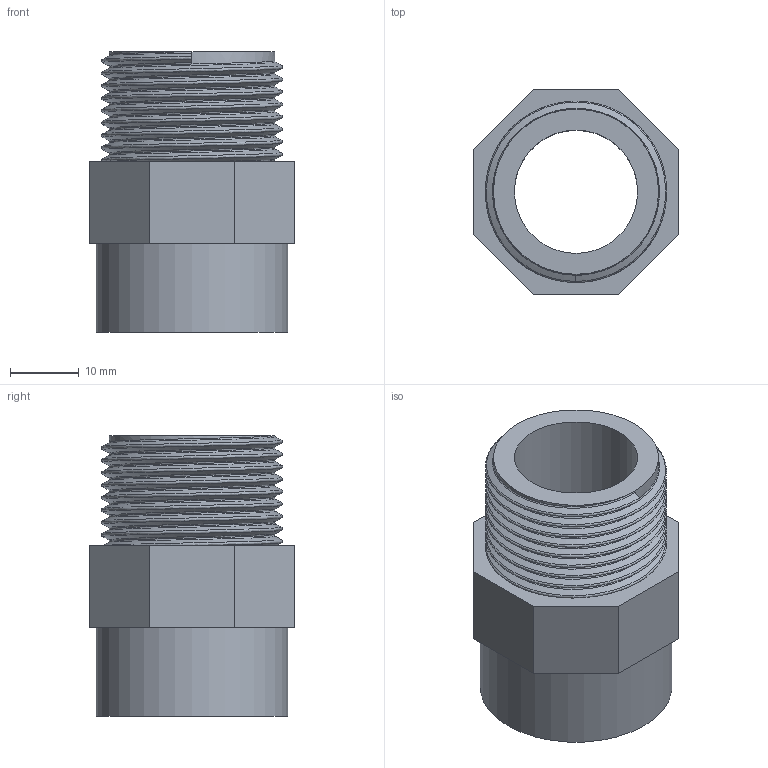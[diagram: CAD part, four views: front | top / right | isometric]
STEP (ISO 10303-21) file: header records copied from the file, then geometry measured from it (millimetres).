
FILE_DESCRIPTION(/* description */ ('PVC riduzione filettata BSP maschio-femmina'),/* implementation_level */ '2;1');
FILE_NAME(/* name */ 'C:\Users\POLYPIPE\Desktop\DATASET INVENTOR\LIBRERIA EFFAST\RACCORDI 3DxWEB\RER\3D_RERRIE\3D_RERRIE025B.stp',/* time_stamp */ '2018-01-19T17:01:00+01:00',/* author */ ('POLYPIPE'),/* organization */ ('Polypipe Italia'),/* preprocessor_version */ 'ST-DEVELOPER v16.1',/* originating_system */ 'Autodesk Inventor 2016',/* authorisation */ '');
FILE_SCHEMA (('CONFIG_CONTROL_DESIGN'));
Length unit declared in the file: millimetre
Products named in the file (1): 3D_RERRIE025B
Bounding box: 30 x 30 x 41 mm (x, y, z)
Volume: 13715 mm3; surface area: 8442.7 mm2
Topology: 1 solids, 1 shells, 30 faces, 69 edges, 44 vertices
Faces by surface type: plane 15, bspline 10, cylinder 5
Full cylindrical faces by diameter (mm): 18 x1, 24.117 x1, 28 x1
Entity records: 7198 total; most frequent: CARTESIAN_POINT 6560, ORIENTED_EDGE 134, DIRECTION 99, EDGE_CURVE 67, VERTEX_POINT 44, EDGE_LOOP 37, AXIS2_PLACEMENT_3D 34, LINE 31
